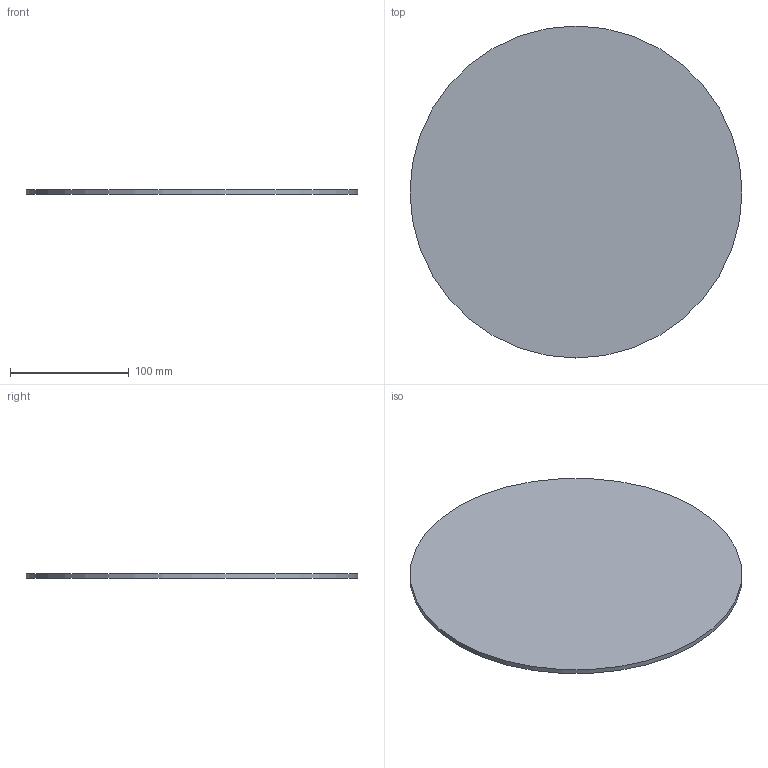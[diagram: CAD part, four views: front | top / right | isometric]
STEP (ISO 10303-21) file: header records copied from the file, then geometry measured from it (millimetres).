
FILE_DESCRIPTION(('Open CASCADE Model'),'2;1');
FILE_NAME('Open CASCADE Shape Model','2026-10-04T02:31:37',('Author'),( 'Open CASCADE'),'Open CASCADE STEP processor 8.0','Open CASCADE 8.0' ,'Unknown');
FILE_SCHEMA(('AUTOMOTIVE_DESIGN { 1 0 10303 214 1 1 1 1 }'));
Length unit declared in the file: millimetre
Products named in the file (1): Open CASCADE STEP translator 8.0 107
Bounding box: 280 x 280 x 4 mm (x, y, z)
Volume: 246300.9 mm3; surface area: 126669 mm2
Topology: 1 solids, 1 shells, 3 faces, 3 edges, 2 vertices
Faces by surface type: plane 2, cylinder 1
Full cylindrical faces by diameter (mm): 280 x1
Entity records: 108 total; most frequent: DIRECTION 19, CARTESIAN_POINT 15, AXIS2_PLACEMENT_3D 6, ORIENTED_EDGE 6, PCURVE 6, DEFINITIONAL_REPRESENTATION 6, LINE 5, VECTOR 5
